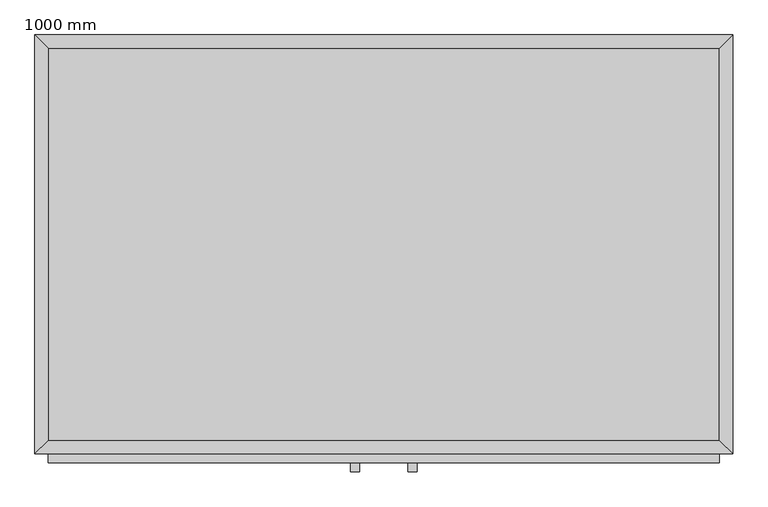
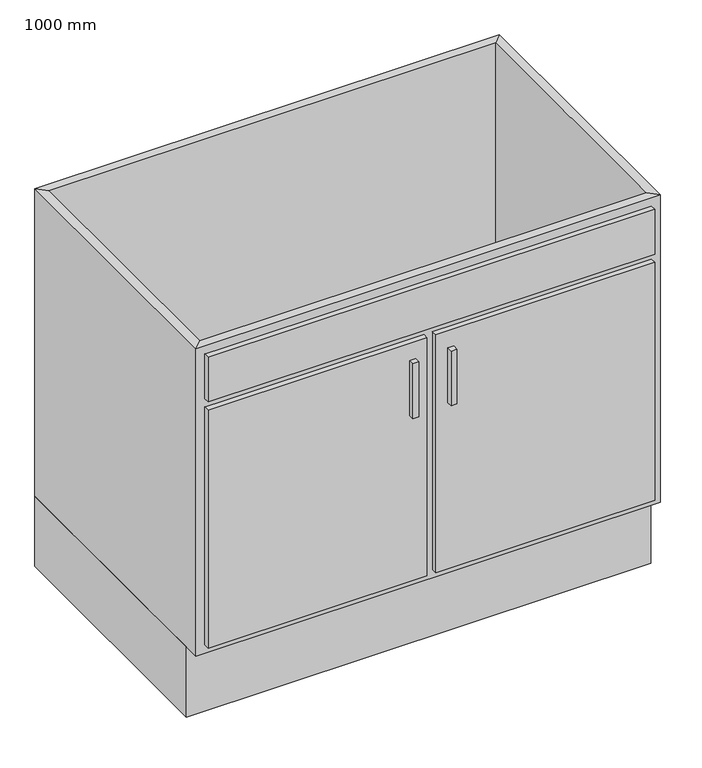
"""IFC4 building model written with IfcOpenShell, lengths in millimetres: furniture geometry, Armario base-Unidad de fregadero de puerta doble : 1000 mm."""

from ifc_helpers import new_model, si_unit, frame, origin, origin_with_axes, place, context, project, spatial, polyline, outline, extrude, faceted_brep, source, transform, mapped, element, save


def furniture_1000_mm_e8eab364(model_context):
    return source(origin(), model_context, "Body", "SolidModel", [
        extrude(outline(polyline([(499.6877049, -19.05), (499.6877049, -580.95), (-462.2122951, -580.95), (-462.2122951, -19.05), (499.6877049, -19.05)])), frame((0.0, 0.0, 160.0), z_axis=(0.0, 0.0, 1.0), x_axis=(1.0, 0.0, 0.0)), (0.0, 0.0, 1.0), 19.05),
        faceted_brep([(499.6877049, -580.95, 860.0), (499.6877049, -580.95, 160.0), (-462.2122951, -580.95, 160.0), (-462.2122951, -580.95, 860.0), (518.7377049, -600.0, 860.0), (-481.2622951, -600.0, 860.0), (518.7377049, -600.0, 160.0), (-481.2622951, -600.0, 160.0), (-462.2122951, -19.05, 160.0), (-462.2122951, -19.05, 860.0), (-481.2622951, 0.0, 860.0), (-481.2622951, 0.0, 160.0), (499.6877049, -19.05, 160.0), (499.6877049, -19.05, 860.0), (518.7377049, 0.0, 860.0), (518.7377049, 0.0, 160.0)], [[[0, 1, 2, 3]], [[4, 0, 3, 5]], [[6, 4, 5, 7]], [[1, 6, 7, 2]], [[3, 2, 8, 9]], [[5, 3, 9, 10]], [[7, 5, 10, 11]], [[2, 7, 11, 8]], [[9, 8, 12, 13]], [[10, 9, 13, 14]], [[11, 10, 14, 15]], [[8, 11, 15, 12]], [[13, 12, 1, 0]], [[14, 13, 0, 4]], [[15, 14, 4, 6]], [[12, 15, 6, 1]]]),
        extrude(outline(polyline([(518.7377049, 0.0), (518.7377049, -565.0), (-481.2622951, -565.0), (-481.2622951, 0.0), (518.7377049, 0.0)])), origin_with_axes(), (0.0, 0.0, 1.0), 160.0),
        extrude(outline(polyline([(9.2127049, -612.7), (-462.2122951, -612.7), (-462.2122951, -600.0), (9.2127049, -600.0), (9.2127049, -612.7)])), frame((0.0, 0.0, 179.05), z_axis=(0.0, 0.0, 1.0), x_axis=(1.0, 0.0, 0.0)), (0.0, 0.0, 1.0), 541.25),
        extrude(outline(polyline([(499.6877049, -612.7), (28.2627049, -612.7), (28.2627049, -600.0), (499.6877049, -600.0), (499.6877049, -612.7)])), frame((0.0, 0.0, 179.05), z_axis=(0.0, 0.0, 1.0), x_axis=(1.0, 0.0, 0.0)), (0.0, 0.0, 1.0), 541.25),
        extrude(outline(polyline([(499.6877049, -612.7), (-462.2122951, -612.7), (-462.2122951, -600.0), (499.6877049, -600.0), (499.6877049, -612.7)])), frame((0.0, 0.0, 739.35), z_axis=(0.0, 0.0, 1.0), x_axis=(1.0, 0.0, 0.0)), (0.0, 0.0, 1.0), 101.6),
        extrude(outline(polyline([(-16.1872951, -625.4), (-28.8872951, -625.4), (-28.8872951, -612.7), (-16.1872951, -612.7), (-16.1872951, -625.4)])), frame((0.0, 0.0, 557.469895), z_axis=(0.0, 0.0, 1.0), x_axis=(1.0, 0.0, 0.0)), (0.0, 0.0, 1.0), 124.730105),
        extrude(outline(polyline([(66.3627049, -625.4), (53.6627049, -625.4), (53.6627049, -612.7), (66.3627049, -612.7), (66.3627049, -625.4)])), frame((0.0, 0.0, 557.469895), z_axis=(0.0, 0.0, 1.0), x_axis=(1.0, 0.0, 0.0)), (0.0, 0.0, 1.0), 124.730105),
    ])


if __name__ == "__main__":
    model = new_model("IFC4")
    model_context = context("Model", 3, world=origin())
    ifc_project = project(units=[si_unit("LENGTHUNIT", "METRE", prefix="MILLI")], contexts=[model_context])
    site = spatial("IfcSite", under=ifc_project)
    building = spatial("IfcBuilding", under=site)
    placement = place(None, origin())
    furniture_1000_mm_shape = furniture_1000_mm_e8eab364(model_context)
    element("IfcFurniture", 1, ObjectType="Armario base-Unidad de fregadero de puerta doble : 1000 mm", at=placement, inside=building, context=model_context, shape_type="MappedRepresentation", body=[
        mapped(furniture_1000_mm_shape, transform((0.0, 0.0, 0.0), x_axis=(1.0, 0.0, 0.0), y_axis=(0.0, 1.0, 0.0), z_axis=(0.0, 0.0, 1.0))),
    ])
    save(model, "model.ifc")
